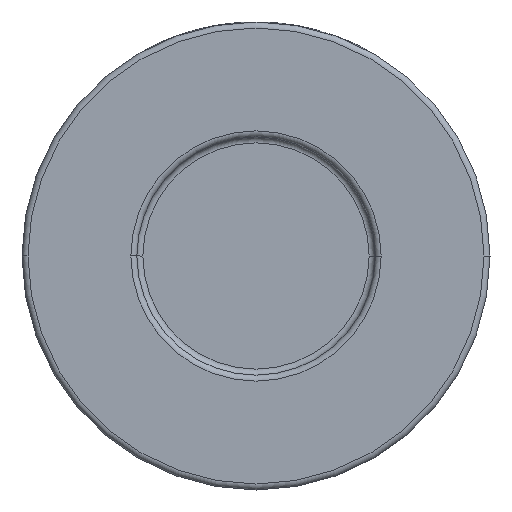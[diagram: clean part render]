
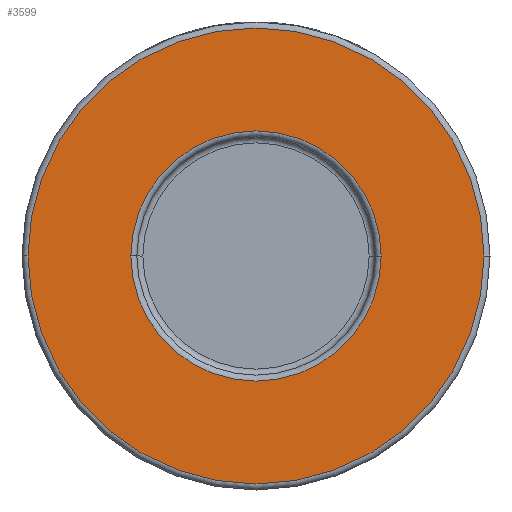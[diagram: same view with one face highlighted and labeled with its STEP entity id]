
A CAD part, front view. The second image highlights one B-rep face of the part: STEP entity #3599.
In plain terms, the highlighted planar face has unit normal (0, -1, 0).
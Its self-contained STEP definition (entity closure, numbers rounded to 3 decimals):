
#79 = CARTESIAN_POINT ( 'NONE',  ( 20.85, -29., 0. ) ) ;
#175 = CIRCLE ( 'NONE', #1352, 38. ) ;
#352 = AXIS2_PLACEMENT_3D ( 'NONE', #3188, #4627, #2487 ) ;
#756 = ORIENTED_EDGE ( 'NONE', *, *, #2097, .T. ) ;
#795 = FACE_OUTER_BOUND ( 'NONE', #3547, .T. ) ;
#805 = CIRCLE ( 'NONE', #954, 38. ) ;
#954 = AXIS2_PLACEMENT_3D ( 'NONE', #3214, #4653, #2863 ) ;
#1053 = CARTESIAN_POINT ( 'NONE',  ( 0., -29., 0. ) ) ;
#1091 = PLANE ( 'NONE',  #4036 ) ;
#1266 = AXIS2_PLACEMENT_3D ( 'NONE', #3804, #2372, #2016 ) ;
#1352 = AXIS2_PLACEMENT_3D ( 'NONE', #1053, #3895, #4000 ) ;
#1532 = VERTEX_POINT ( 'NONE', #1988 ) ;
#1606 = VERTEX_POINT ( 'NONE', #4263 ) ;
#1988 = CARTESIAN_POINT ( 'NONE',  ( 38., -29., 0. ) ) ;
#2016 = DIRECTION ( 'NONE',  ( 1., 0., 0. ) ) ;
#2072 = EDGE_CURVE ( 'NONE', #1606, #2215, #2444, .T. ) ;
#2097 = EDGE_CURVE ( 'NONE', #1532, #4292, #805, .T. ) ;
#2215 = VERTEX_POINT ( 'NONE', #79 ) ;
#2226 = CARTESIAN_POINT ( 'NONE',  ( 39., -29., 0. ) ) ;
#2297 = EDGE_CURVE ( 'NONE', #2215, #1606, #2614, .T. ) ;
#2372 = DIRECTION ( 'NONE',  ( 0., 1., 0. ) ) ;
#2401 = ORIENTED_EDGE ( 'NONE', *, *, #2603, .T. ) ;
#2444 = CIRCLE ( 'NONE', #352, 20.85 ) ;
#2487 = DIRECTION ( 'NONE',  ( 1., 0., 0. ) ) ;
#2529 = DIRECTION ( 'NONE',  ( 0., -1., 0. ) ) ;
#2603 = EDGE_CURVE ( 'NONE', #4292, #1532, #175, .T. ) ;
#2614 = CIRCLE ( 'NONE', #1266, 20.85 ) ;
#2863 = DIRECTION ( 'NONE',  ( 1., 0., 0. ) ) ;
#3100 = ORIENTED_EDGE ( 'NONE', *, *, #2072, .T. ) ;
#3188 = CARTESIAN_POINT ( 'NONE',  ( 0., -29., 0. ) ) ;
#3214 = CARTESIAN_POINT ( 'NONE',  ( 0., -29., 0. ) ) ;
#3547 = EDGE_LOOP ( 'NONE', ( #756, #2401 ) ) ;
#3599 = ADVANCED_FACE ( 'NONE', ( #4318, #795 ), #1091, .T. ) ;
#3662 = DIRECTION ( 'NONE',  ( 1., 0., 0. ) ) ;
#3699 = ORIENTED_EDGE ( 'NONE', *, *, #2297, .T. ) ;
#3804 = CARTESIAN_POINT ( 'NONE',  ( 0., -29., 0. ) ) ;
#3848 = CARTESIAN_POINT ( 'NONE',  ( -38., -29., 0. ) ) ;
#3895 = DIRECTION ( 'NONE',  ( 0., -1., 0. ) ) ;
#4000 = DIRECTION ( 'NONE',  ( 1., 0., 0. ) ) ;
#4029 = EDGE_LOOP ( 'NONE', ( #3699, #3100 ) ) ;
#4036 = AXIS2_PLACEMENT_3D ( 'NONE', #2226, #2529, #3662 ) ;
#4263 = CARTESIAN_POINT ( 'NONE',  ( -20.85, -29., 0. ) ) ;
#4292 = VERTEX_POINT ( 'NONE', #3848 ) ;
#4318 = FACE_BOUND ( 'NONE', #4029, .T. ) ;
#4627 = DIRECTION ( 'NONE',  ( 0., 1., 0. ) ) ;
#4653 = DIRECTION ( 'NONE',  ( 0., -1., 0. ) ) ;
